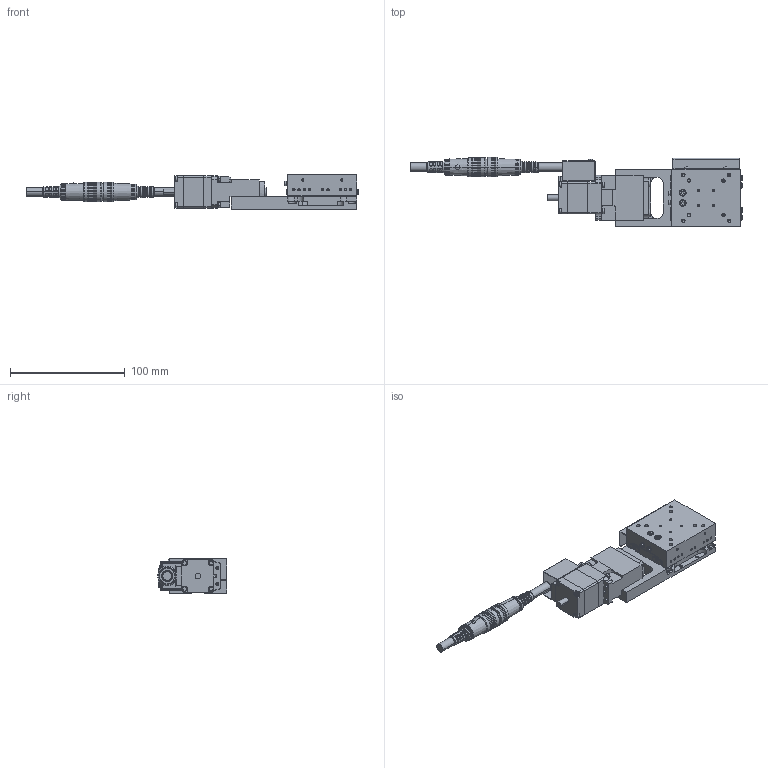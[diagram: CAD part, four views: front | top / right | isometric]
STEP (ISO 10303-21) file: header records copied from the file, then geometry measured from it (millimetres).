
FILE_DESCRIPTION (( 'STEP AP203' ), '1' );
FILE_NAME ('SXA0530-R01-R.STEP', '2021-04-26T09:20:39', ( '' ), ( '' ), 'SwSTEP 2.0', 'SolidWorks 2018', '' );
FILE_SCHEMA (( 'CONFIG_CONTROL_DESIGN' ));
Length unit declared in the file: millimetre
Products named in the file (5): base-Part-2; table; base; SXA0530-R01-R; base-Part-1
Assembly tree (4 placements, depth 3):
  SXA0530-R01-R
    base
      base-Part-1
      base-Part-2
    table
Bounding box: 289.6 x 60.25 x 30 mm (x, y, z)
Volume: 178343.6 mm3; surface area: 54340.7 mm2
Topology: 3 solids, 4 shells, 1418 faces, 3520 edges, 2196 vertices
Faces by surface type: plane 730, cylinder 418, cone 206, torus 48, sphere 16
Entity records: 42929 total; most frequent: CARTESIAN_POINT 8060, DIRECTION 7552, ORIENTED_EDGE 6900, EDGE_CURVE 3450, AXIS2_PLACEMENT_3D 2766, VERTEX_POINT 2186, VECTOR 2020, LINE 2020
